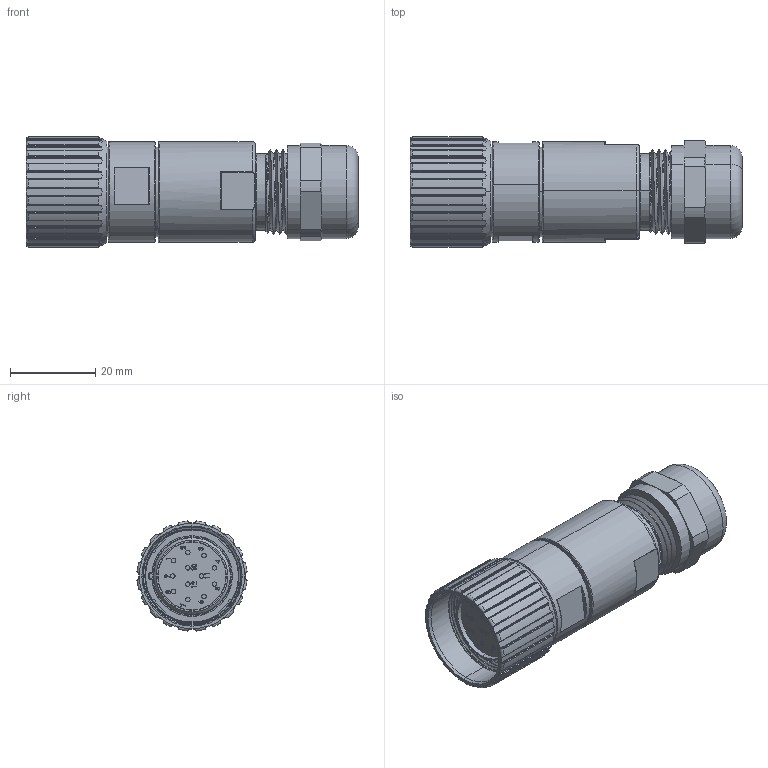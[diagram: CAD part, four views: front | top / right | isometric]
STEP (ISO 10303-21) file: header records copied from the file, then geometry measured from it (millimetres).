
FILE_DESCRIPTION (( 'STEP AP214' ), '1' );
FILE_NAME ('MCV-12MP-FW-CC.STEP', '2020-04-23T11:24:34', ( '' ), ( '' ), 'SwSTEP 2.0', 'SolidWorks 2018', '' );
FILE_SCHEMA (( 'AUTOMOTIVE_DESIGN' ));
Length unit declared in the file: millimetre
Products named in the file (2): MCV-12MP-FW-CC
Bounding box: 77.92 x 25.82 x 25.82 mm (x, y, z)
Volume: 27953.3 mm3; surface area: 10393.7 mm2
Topology: 1 solids, 1 shells, 569 faces, 1507 edges, 993 vertices
Faces by surface type: plane 222, cylinder 210, bspline 88, torus 30, cone 19
Entity records: 30953 total; most frequent: CARTESIAN_POINT 11927, ORIENTED_EDGE 3014, DIRECTION 2195, EDGE_CURVE 1507, VERTEX_POINT 993, AXIS2_PLACEMENT_3D 768, VECTOR 659, LINE 659
